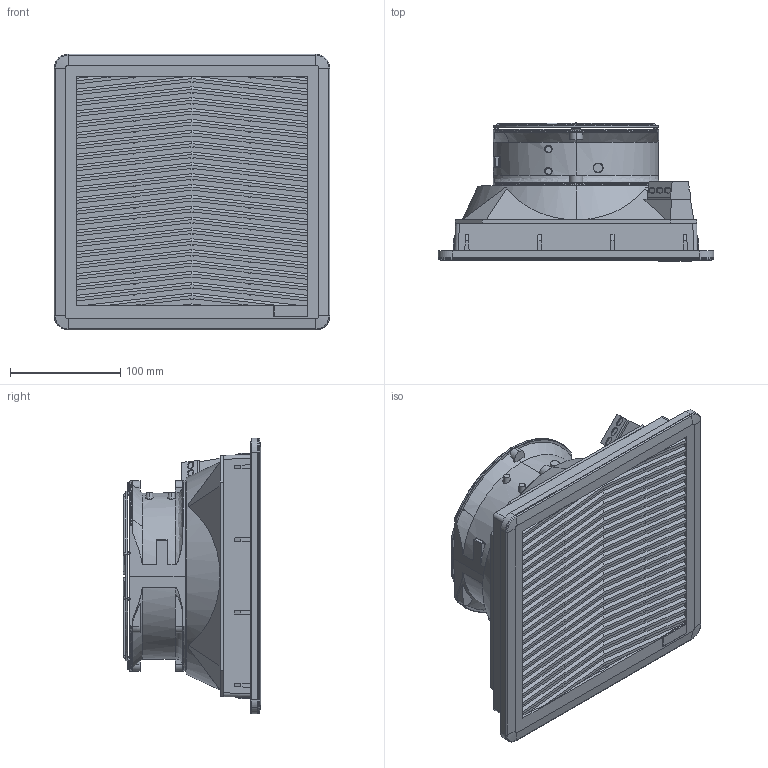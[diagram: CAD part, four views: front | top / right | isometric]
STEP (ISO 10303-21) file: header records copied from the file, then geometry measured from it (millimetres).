
FILE_DESCRIPTION (( 'STEP AP214' ), '1' );
FILE_NAME ('FF15DxxyN.STEP', '2023-10-04T07:16:51', ( '' ), ( '' ), 'SwSTEP 2.0', 'SolidWorks 2022', '' );
FILE_SCHEMA (( 'AUTOMOTIVE_DESIGN' ));
Length unit declared in the file: millimetre
Products named in the file (8): FF15DxxyN; DT-00159DSI_Base semplificata; DT-04082DSI_mostrina semplificata; DT-02364DSI_semplificata; DT-02106DSI_P15*FPF-nnnn semplificata; DT-00158DSI_Sede etichetta semplificato; 5920pl_Semplificato; 040013_LK_980-01-3_morsettiera semplificata
Assembly tree (7 placements, depth 2):
  FF15DxxyN
    DT-00158DSI_Sede etichetta semplificato
    DT-02106DSI_P15*FPF-nnnn semplificata
    5920pl_Semplificato
    DT-02364DSI_semplificata
    040013_LK_980-01-3_morsettiera semplificata
    DT-04082DSI_mostrina semplificata
    DT-00159DSI_Base semplificata
Bounding box: 250.12 x 125.05 x 250.08 mm (x, y, z)
Volume: 3689412 mm3; surface area: 538443.8 mm2
Topology: 6 solids, 7 shells, 1067 faces, 2930 edges, 1893 vertices
Faces by surface type: plane 747, bspline 117, torus 97, cylinder 87, cone 19
Entity records: 41467 total; most frequent: CARTESIAN_POINT 16087, ORIENTED_EDGE 5828, DIRECTION 4046, EDGE_CURVE 2914, VERTEX_POINT 1893, LINE 1376, VECTOR 1376, AXIS2_PLACEMENT_3D 1335
